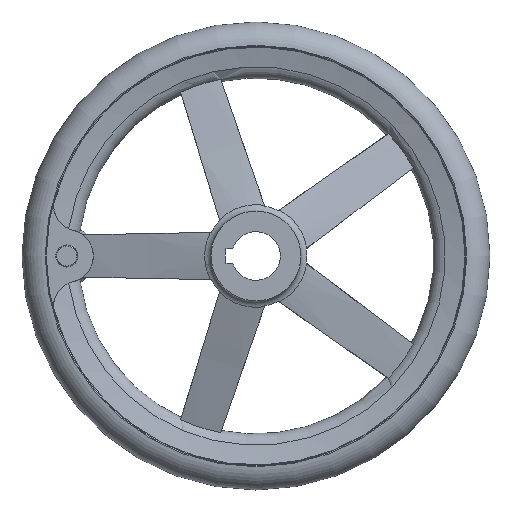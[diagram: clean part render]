
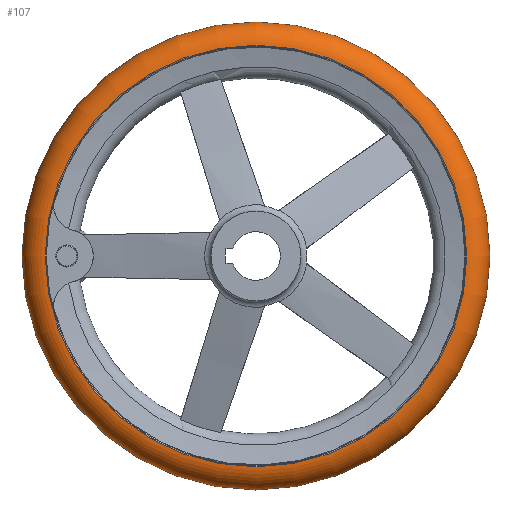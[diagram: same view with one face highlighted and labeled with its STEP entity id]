
A CAD part, left-side view. The second image highlights one B-rep face of the part: STEP entity #107.
In plain terms, the highlighted toroidal (fillet/blend) face has major radius 111.988 mm and minor radius 13.012 mm.
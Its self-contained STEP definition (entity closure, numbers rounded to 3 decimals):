
#107 = ADVANCED_FACE( '', ( #217, #218, #219 ), #220, .T. );
#217 = FACE_BOUND( '', #373, .T. );
#218 = FACE_OUTER_BOUND( '', #374, .T. );
#219 = FACE_OUTER_BOUND( '', #375, .T. );
#220 = TOROIDAL_SURFACE( '', #376, 111.988, 13.012 );
#373 = VERTEX_LOOP( '', #779 );
#374 = EDGE_LOOP( '', ( #780 ) );
#375 = EDGE_LOOP( '', ( #781 ) );
#376 = AXIS2_PLACEMENT_3D( '', #782, #783, #784 );
#779 = VERTEX_POINT( '', #1112 );
#780 = ORIENTED_EDGE( '', *, *, #1113, .T. );
#781 = ORIENTED_EDGE( '', *, *, #1114, .F. );
#782 = CARTESIAN_POINT( '', ( 37., 0., 0. ) );
#783 = DIRECTION( '', ( 1., 0., 0. ) );
#784 = DIRECTION( '', ( 0., 1., 0. ) );
#1112 = CARTESIAN_POINT( '', ( 37., 125., 0. ) );
#1113 = EDGE_CURVE( '', #1366, #1366, #1367, .T. );
#1114 = EDGE_CURVE( '', #1368, #1368, #1369, .T. );
#1366 = VERTEX_POINT( '', #2214 );
#1367 = CIRCLE( '', #2215, 112.542 );
#1368 = VERTEX_POINT( '', #2216 );
#1369 = CIRCLE( '', #2217, 112.542 );
#2214 = CARTESIAN_POINT( '', ( 24., 112.542, 0. ) );
#2215 = AXIS2_PLACEMENT_3D( '', #2463, #2464, #2465 );
#2216 = CARTESIAN_POINT( '', ( 50., 112.542, 0. ) );
#2217 = AXIS2_PLACEMENT_3D( '', #2466, #2467, #2468 );
#2463 = CARTESIAN_POINT( '', ( 24., 0., 0. ) );
#2464 = DIRECTION( '', ( 1., 0., 0. ) );
#2465 = DIRECTION( '', ( 0., 1., 0. ) );
#2466 = CARTESIAN_POINT( '', ( 50., 0., 0. ) );
#2467 = DIRECTION( '', ( 1., 0., 0. ) );
#2468 = DIRECTION( '', ( 0., 1., 0. ) );
